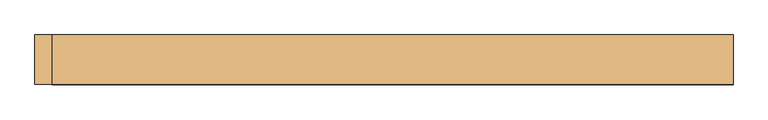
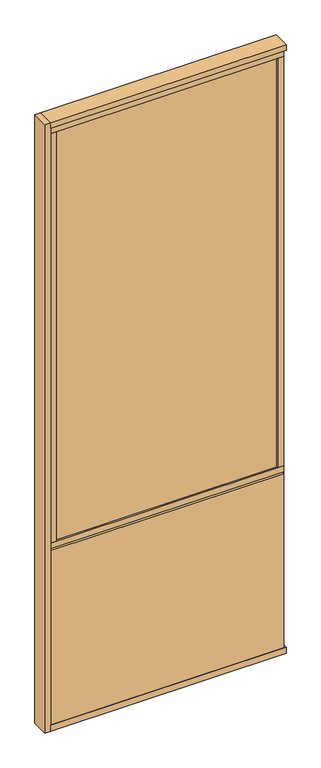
"""IFC4 building model written with IfcOpenShell, lengths in millimetres: door geometry, Mobiliário_Mobiliário de Escritório_Painel Misto Vidro Duplo - ADT E ADL (Inicial e Final)_Marelli : ADT - Temperado."""

from ifc_helpers import new_model, si_unit, frame, origin, origin_with_axes, place, context, project, spatial, polyline, outline, extrude, source, transform, mapped, element, save


def door_f27a0bd5(model_context):
    return source(origin(), model_context, "Body", "SweptSolid", [
        extrude(outline(polyline([(600.0, 42.5), (600.0, -42.5), (-570.0, -42.5), (-570.0, 42.5), (600.0, 42.5)])), origin_with_axes(), (0.0, 0.0, 1.0), 30.0),
        extrude(outline(polyline([(590.0, 39.5), (590.0, 21.5), (-570.0, 21.5), (-570.0, 39.5), (590.0, 39.5)])), frame((0.0, 0.0, 30.0), z_axis=(0.0, 0.0, 1.0), x_axis=(1.0, 0.0, 0.0)), (0.0, 0.0, 1.0), 916.5),
        extrude(outline(polyline([(590.0, 21.5), (590.0, -21.5), (-570.0, -21.5), (-570.0, 21.5), (590.0, 21.5)])), frame((0.0, 0.0, 913.5), z_axis=(0.0, 0.0, 1.0), x_axis=(1.0, 0.0, 0.0)), (0.0, 0.0, 1.0), 43.0),
        extrude(outline(polyline([(590.0, -39.5), (-570.0, -39.5), (-570.0, -21.5), (590.0, -21.5), (590.0, -39.5)])), frame((0.0, 0.0, 30.0), z_axis=(0.0, 0.0, 1.0), x_axis=(1.0, 0.0, 0.0)), (0.0, 0.0, 1.0), 916.5),
        extrude(outline(polyline([(590.0, 39.5), (590.0, -39.5), (-570.0, -39.5), (-570.0, 39.5), (590.0, 39.5)])), frame((0.0, 0.0, 956.5), z_axis=(0.0, 0.0, 1.0), x_axis=(1.0, 0.0, 0.0)), (0.0, 0.0, 1.0), 30.0),
        extrude(outline(polyline([(600.0, 42.5), (600.0, -42.5), (-570.0, -42.5), (-570.0, 42.5), (600.0, 42.5)])), frame((0.0, 0.0, 3170.0), z_axis=(0.0, 0.0, 1.0), x_axis=(1.0, 0.0, 0.0)), (0.0, 0.0, 1.0), 30.0),
        extrude(outline(polyline([(590.0, 39.5), (590.0, -39.5), (-570.0, -39.5), (-570.0, 39.5), (590.0, 39.5)])), frame((0.0, 0.0, 3140.0), z_axis=(0.0, 0.0, 1.0), x_axis=(1.0, 0.0, 0.0)), (0.0, 0.0, 1.0), 30.0),
        extrude(outline(polyline([(-600.0, -42.5), (-600.0, 42.5), (-570.0, 42.5), (-570.0, -42.5), (-600.0, -42.5)])), origin_with_axes(), (0.0, 0.0, 1.0), 3200.0),
        extrude(outline(polyline([(600.0, -21.5), (590.0, -21.5), (590.0, 21.5), (600.0, 21.5), (600.0, -21.5)])), frame((0.0, 0.0, 30.0), z_axis=(0.0, 0.0, 1.0), x_axis=(1.0, 0.0, 0.0)), (0.0, 0.0, 1.0), 3140.0),
        extrude(outline(polyline([(-540.0, 39.5), (-540.0, -39.5), (-570.0, -39.5), (-570.0, 39.5), (-540.0, 39.5)])), frame((0.0, 0.0, 986.5), z_axis=(0.0, 0.0, 1.0), x_axis=(1.0, 0.0, 0.0)), (0.0, 0.0, 1.0), 2153.5),
        extrude(outline(polyline([(560.0, 39.5), (590.0, 39.5), (590.0, -39.5), (560.0, -39.5), (560.0, 39.5)])), frame((0.0, 0.0, 986.5), z_axis=(0.0, 0.0, 1.0), x_axis=(1.0, 0.0, 0.0)), (0.0, 0.0, 1.0), 2153.5),
        extrude(outline(polyline([(560.0, 31.0), (560.0, 25.0), (-540.0, 25.0), (-540.0, 31.0), (560.0, 31.0)])), frame((0.0, 0.0, 986.5), z_axis=(0.0, 0.0, 1.0), x_axis=(1.0, 0.0, 0.0)), (0.0, 0.0, 1.0), 2153.5),
        extrude(outline(polyline([(560.0, -25.0), (560.0, -31.0), (-540.0, -31.0), (-540.0, -25.0), (560.0, -25.0)])), frame((0.0, 0.0, 986.5), z_axis=(0.0, 0.0, 1.0), x_axis=(1.0, 0.0, 0.0)), (0.0, 0.0, 1.0), 2153.5),
    ])


if __name__ == "__main__":
    model = new_model("IFC4")
    model_context = context("Model", 3, world=origin())
    ifc_project = project(units=[si_unit("LENGTHUNIT", "METRE", prefix="MILLI")], contexts=[model_context])
    site = spatial("IfcSite", under=ifc_project)
    building = spatial("IfcBuilding", under=site)
    placement = place(None, origin())
    door_shape = door_f27a0bd5(model_context)
    element("IfcDoor", 1, ObjectType="Mobiliário_Mobiliário de Escritório_Painel Misto Vidro Duplo - ADT E ADL (Inicial e Final)_Marelli : ADT - Temperado", at=placement, inside=building, context=model_context, shape_type="MappedRepresentation", body=[
        mapped(door_shape, transform((0.0, 0.0, 0.0), x_axis=(1.0, 0.0, 0.0), y_axis=(0.0, 1.0, 0.0), z_axis=(0.0, 0.0, 1.0))),
    ])
    save(model, "model.ifc")
